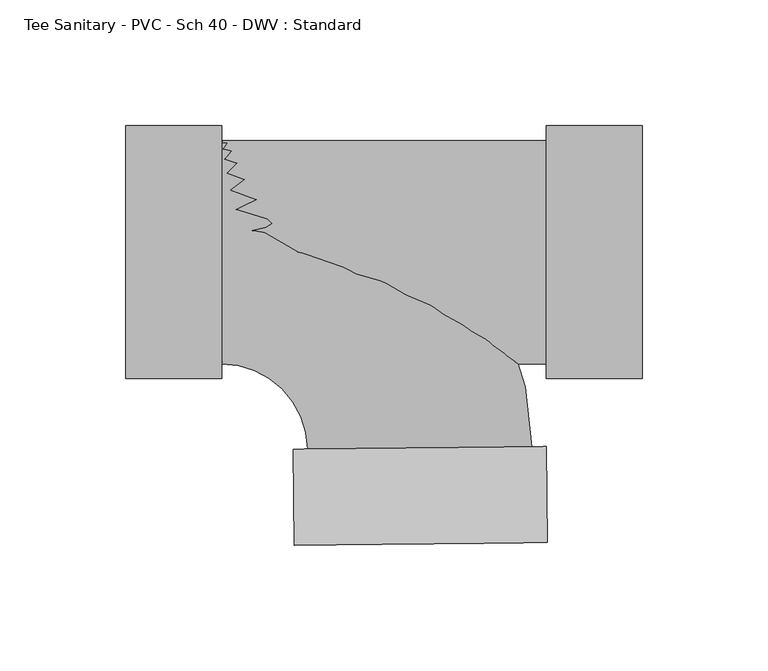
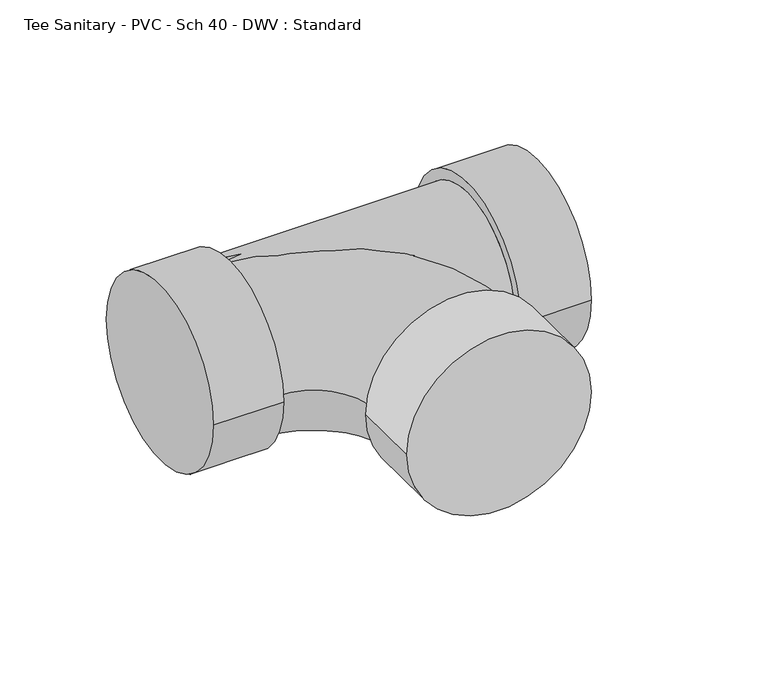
"""IFC4 building model written with IfcOpenShell, lengths in millimetres: pipe fitting geometry, Tee Sanitary - PVC - Sch 40 - DWV : Standard."""

from ifc_helpers import new_model, si_unit, point, frame, origin, place, context, project, spatial, circle_curve, ellipse_curve, trimmed, source, transform, mapped, element, save
from ifc_brep_helpers import plane_surface, cylinder_surface, revolved_surface, advanced_brep


def tee_sanitary_pvc_sch_40_dwv_standard_1c89b272(model_context):
    return source(origin(), model_context, "Body", "AdvancedBrep", [
        advanced_brep(
        [(-77.8002, -44.45, 0.0), (-77.8002, 44.45, 0.0), (-43.6372138, -78.2589751, 0.0), (45.2579634, -77.3329837, 0.0), (51.4711013, -115.3703305, 0.0), (-49.0566448, -116.4174945, 0.0), (51.0742479, -77.2723974, 0.0), (-49.4534983, -78.3195614, 0.0)],
        [
            (0, 1, circle_curve(frame((-77.8002, 0.0, 0.0), z_axis=(-1.0, 0.0, 0.0), x_axis=(0.0, 1.0, 0.0)), 44.45)),
            (1, 0, circle_curve(frame((-77.8002, 0.0, 0.0), z_axis=(-1.0, 0.0, 0.0), x_axis=(0.0, 1.0, 0.0)), 44.45)),
            (0, 2, circle_curve(frame((-77.8002, -78.6148396, 0.0), z_axis=(0.0, 0.0, -1.0), x_axis=(0.0, 1.0, 0.0)), 34.1648396)),
            (2, 3, circle_curve(frame((0.8103748, -77.7959794, 0.0), z_axis=(-0.010416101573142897, 0.9999457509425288, 0.0), x_axis=(0.9999457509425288, 0.010416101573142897, 0.0)), 44.45)),
            (3, 1, circle_curve(frame((-77.8002, -78.6148396, 0.0), z_axis=(0.0, 0.0, 1.0), x_axis=(0.0, 1.0, 0.0)), 123.0648396)),
            (3, 2, circle_curve(frame((0.8103748, -77.7959794, 0.0), z_axis=(-0.010416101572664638, 0.9999457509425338, 0.0), x_axis=(0.9999457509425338, 0.010416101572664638, 0.0)), 44.45)),
            (4, 5, circle_curve(frame((1.2072283, -115.8939125, 0.0), z_axis=(0.010416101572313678, -0.9999457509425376, 0.0), x_axis=(-0.9999457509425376, -0.010416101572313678, 0.0)), 50.2666)),
            (5, 4, circle_curve(frame((1.2072283, -115.8939125, 0.0), z_axis=(0.010416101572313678, -0.9999457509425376, 0.0), x_axis=(-0.9999457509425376, -0.010416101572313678, 0.0)), 50.2666)),
            (6, 7, circle_curve(frame((0.8103748, -77.7959794, 0.0), z_axis=(-0.010416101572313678, 0.9999457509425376, 0.0), x_axis=(-0.9999457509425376, -0.010416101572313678, 0.0)), 50.2666)),
            (7, 6, circle_curve(frame((0.8103748, -77.7959794, 0.0), z_axis=(-0.010416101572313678, 0.9999457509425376, 0.0), x_axis=(-0.9999457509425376, -0.010416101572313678, 0.0)), 50.2666)),
            (4, 6),
            (7, 5),
        ],
        [
            plane_surface(frame((-77.8002, 0.0, 0.0), z_axis=(-1.0, 0.0, 0.0), x_axis=(0.0, 0.0, 1.0))),
            revolved_surface(trimmed(ellipse_curve(frame((-77.8002, 0.0, 0.0), z_axis=(-1.0, 0.0, 0.0), x_axis=(0.0, 1.0, 0.0)), 44.45, 44.45), [point((-77.8002, -44.45, 0.0))], [point((-77.8002, 44.45, 0.0))], True, "CARTESIAN"), (-77.8002, -78.6148396, 0.0), (0.0, 0.0, -1.0)),
            revolved_surface(trimmed(ellipse_curve(frame((-77.8002, 0.0, 0.0), z_axis=(-1.0, 0.0, 0.0), x_axis=(0.0, 1.0, 0.0)), 44.45, 44.45), [point((-77.8002, 44.45, 0.0))], [point((-77.8002, -44.45, 0.0))], True, "CARTESIAN"), (-77.8002, -78.6148396, 0.0), (0.0, 0.0, -1.0)),
            plane_surface(frame((1.2072283, -115.8939125, 0.0), z_axis=(0.010416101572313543, -0.9999457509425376, 0.0), x_axis=(0.0, 0.0, 1.0))),
            plane_surface(frame((0.8103748, -77.7959794, 0.0), z_axis=(-0.010416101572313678, 0.9999457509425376, 0.0), x_axis=(0.0, 0.0, 1.0))),
            cylinder_surface(frame((1.2072283, -115.8939125, 0.0), z_axis=(0.010416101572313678, -0.9999457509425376, 0.0), x_axis=(-0.9999457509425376, -0.010416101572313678, 0.0)), 50.2666),
        ],
        [
            (0, [[1, 2]]),
            (1, [[-1, 3, 4, 5]]),
            (2, [[-2, -5, 6, -3]]),
            (3, [[7, 8]]),
            (4, [[9, 10], [-4, -6]]),
            (5, [[-7, 11, -10, 12]]),
            (5, [[-8, -12, -9, -11]]),
        ],
    ),
        advanced_brep(
        [(-77.8002, -44.45, 0.0), (51.0742479, -44.45, 0.0), (51.0742479, 44.45, 0.0), (-77.8002, 44.45, 0.0), (51.0742479, -50.2666, 0.0), (51.0742479, 50.2666, 0.0), (89.1742479, -50.2666, 0.0), (89.1742479, 50.2666, 0.0), (-115.9002, -50.2666, 0.0), (-115.9002, 50.2666, 0.0), (-77.8002, -50.2666, 0.0), (-77.8002, 50.2666, 0.0)],
        [
            (0, 1),
            (1, 2, circle_curve(frame((51.0742479, 0.0, 0.0), z_axis=(-1.0, 0.0, 0.0), x_axis=(0.0, 1.0, 0.0)), 44.45)),
            (2, 3),
            (3, 0, circle_curve(frame((-77.8002, 0.0, 0.0), z_axis=(1.0, 0.0, 0.0), x_axis=(0.0, 1.0, 0.0)), 44.45)),
            (0, 3, circle_curve(frame((-77.8002, 0.0, 0.0), z_axis=(1.0, 0.0, 0.0), x_axis=(0.0, 1.0, 0.0)), 44.45)),
            (2, 1, circle_curve(frame((51.0742479, 0.0, 0.0), z_axis=(-1.0, 0.0, 0.0), x_axis=(0.0, 1.0, 0.0)), 44.45)),
            (4, 5, circle_curve(frame((51.0742479, 0.0, 0.0), z_axis=(-1.0, 0.0, 0.0), x_axis=(0.0, 1.0, 0.0)), 50.2666)),
            (5, 4, circle_curve(frame((51.0742479, 0.0, 0.0), z_axis=(-1.0, 0.0, 0.0), x_axis=(0.0, 1.0, 0.0)), 50.2666)),
            (6, 7, circle_curve(frame((89.1742479, 0.0, 0.0), z_axis=(1.0, 0.0, 0.0), x_axis=(0.0, 1.0, 0.0)), 50.2666)),
            (7, 6, circle_curve(frame((89.1742479, 0.0, 0.0), z_axis=(1.0, 0.0, 0.0), x_axis=(0.0, 1.0, 0.0)), 50.2666)),
            (4, 6),
            (7, 5),
            (8, 9, circle_curve(frame((-115.9002, 0.0, 0.0), z_axis=(-1.0, 0.0, 0.0), x_axis=(0.0, 1.0, 0.0)), 50.2666)),
            (9, 8, circle_curve(frame((-115.9002, 0.0, 0.0), z_axis=(-1.0, 0.0, 0.0), x_axis=(0.0, 1.0, 0.0)), 50.2666)),
            (10, 11, circle_curve(frame((-77.8002, 0.0, 0.0), z_axis=(1.0, 0.0, 0.0), x_axis=(0.0, 1.0, 0.0)), 50.2666)),
            (11, 10, circle_curve(frame((-77.8002, 0.0, 0.0), z_axis=(1.0, 0.0, 0.0), x_axis=(0.0, 1.0, 0.0)), 50.2666)),
            (8, 10),
            (11, 9),
        ],
        [
            cylinder_surface(frame((-77.8002, 0.0, 0.0), z_axis=(-1.0, 0.0, 0.0), x_axis=(0.0, 1.0, 0.0)), 44.45),
            plane_surface(frame((51.0742479, 0.0, 0.0), z_axis=(-1.0, 0.0, 0.0), x_axis=(0.0, 0.0, 1.0))),
            plane_surface(frame((89.1742479, 0.0, 0.0), z_axis=(1.0, 0.0, 0.0), x_axis=(0.0, 0.0, 1.0))),
            cylinder_surface(frame((51.0742479, 0.0, 0.0), z_axis=(-1.0, 0.0, 0.0), x_axis=(0.0, 1.0, 0.0)), 50.2666),
            plane_surface(frame((-115.9002, 0.0, 0.0), z_axis=(-1.0, 0.0, 0.0), x_axis=(0.0, 0.0, 1.0))),
            plane_surface(frame((-77.8002, 0.0, 0.0), z_axis=(1.0, 0.0, 0.0), x_axis=(0.0, 0.0, 1.0))),
            cylinder_surface(frame((-115.9002, 0.0, 0.0), z_axis=(-1.0, 0.0, 0.0), x_axis=(0.0, 1.0, 0.0)), 50.2666),
        ],
        [
            (0, [[1, 2, 3, 4]]),
            (0, [[-1, 5, -3, 6]]),
            (1, [[7, 8], [-2, -6]]),
            (2, [[9, 10]]),
            (3, [[-7, 11, -10, 12]]),
            (3, [[-8, -12, -9, -11]]),
            (4, [[13, 14]]),
            (5, [[15, 16], [-4, -5]]),
            (6, [[-13, 17, -16, 18]]),
            (6, [[-14, -18, -15, -17]]),
        ],
    ),
    ])


if __name__ == "__main__":
    model = new_model("IFC4")
    model_context = context("Model", 3, world=origin())
    ifc_project = project(units=[si_unit("LENGTHUNIT", "METRE", prefix="MILLI")], contexts=[model_context])
    site = spatial("IfcSite", under=ifc_project)
    building = spatial("IfcBuilding", under=site)
    placement = place(None, origin())
    tee_sanitary_pvc_sch_40_dwv_standard_shape = tee_sanitary_pvc_sch_40_dwv_standard_1c89b272(model_context)
    element("IfcPipeFitting", 1, ObjectType="Tee Sanitary - PVC - Sch 40 - DWV : Standard", at=placement, inside=building, context=model_context, shape_type="MappedRepresentation", body=[
        mapped(tee_sanitary_pvc_sch_40_dwv_standard_shape, transform((0.0, 0.0, 0.0), x_axis=(1.0, 0.0, 0.0), y_axis=(0.0, 1.0, 0.0), z_axis=(0.0, 0.0, 1.0))),
    ])
    save(model, "model.ifc")
